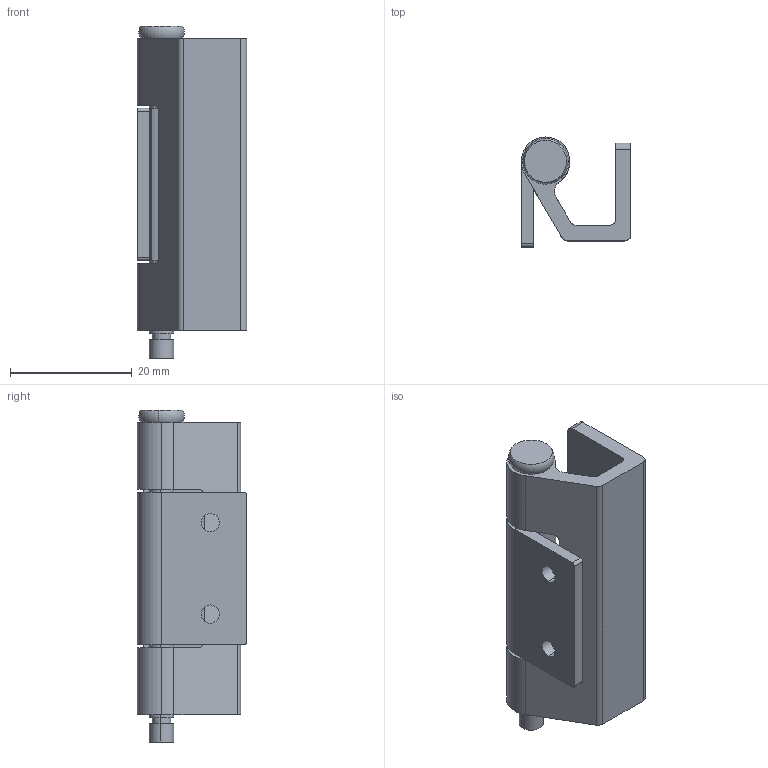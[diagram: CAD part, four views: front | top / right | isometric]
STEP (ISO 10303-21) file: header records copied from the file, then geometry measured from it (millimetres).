
FILE_DESCRIPTION (( 'STEP AP203' ), '1' );
FILE_NAME ('SK2-055.STEP', '2019-12-20T06:46:14', ( 'admin' ), ( 'Microsoft' ), 'SwSTEP 2.0', 'SolidWorks 2018', '' );
FILE_SCHEMA (( 'CONFIG_CONTROL_DESIGN' ));
Length unit declared in the file: millimetre
Products named in the file (4): 2-055-F1; 2-055-F2; 2-055-F3; SK2-055
Assembly tree (3 placements, depth 2):
  SK2-055
    2-055-F1
    2-055-F2
    2-055-F3
Bounding box: 18 x 18 x 54.5 mm (x, y, z)
Volume: 6655.7 mm3; surface area: 6677.2 mm2
Topology: 3 solids, 3 shells, 71 faces, 178 edges, 116 vertices
Faces by surface type: cylinder 40, plane 25, cone 4, torus 2
Entity records: 2592 total; most frequent: DIRECTION 414, CARTESIAN_POINT 383, ORIENTED_EDGE 356, EDGE_CURVE 178, AXIS2_PLACEMENT_3D 163, VERTEX_POINT 116, LINE 88, VECTOR 88
